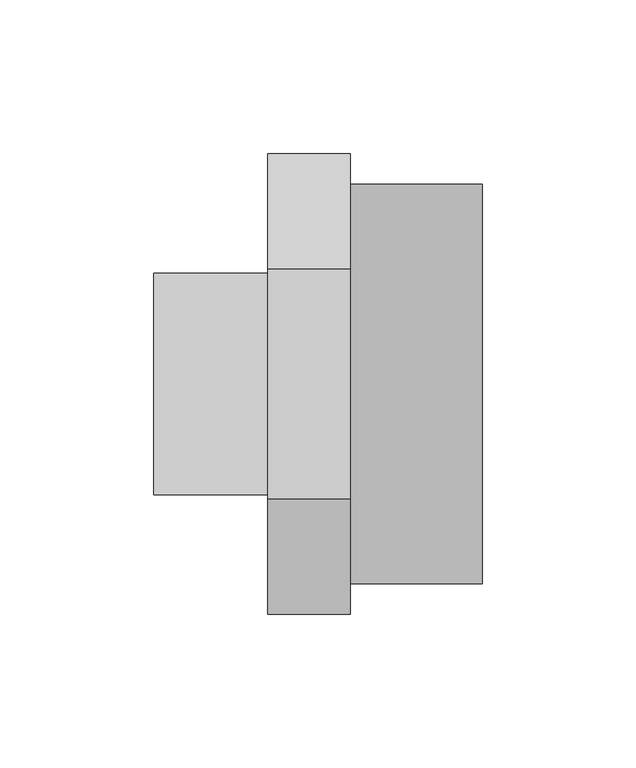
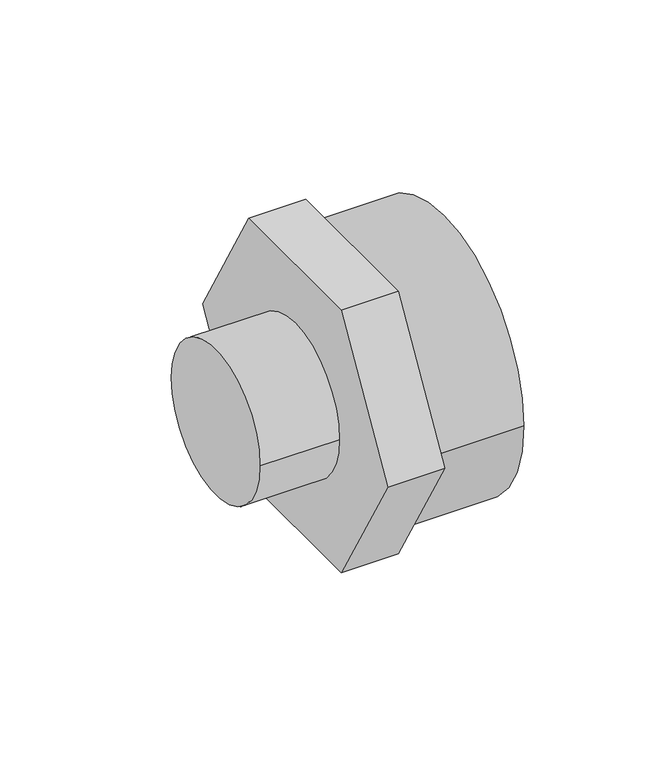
"""IFC4 building model written with IfcOpenShell, lengths in millimetres: pipe fitting geometry, 01011006 : Uniões de redução M/F."""

from ifc_helpers import new_model, si_unit, point, frame, origin, origin_2d, place, context, project, spatial, polyline, circle_curve, trimmed, segment, composite_curve, outline, extrude, source, transform, mapped, element, save


def pipe_fitting_d2e44ccc(model_context):
    return source(origin(), model_context, "Body", "SweptSolid", [
        extrude(outline(composite_curve([segment(trimmed(circle_curve(origin_2d(), 36.0), [point((36.0, 0.0))], [point((-36.0, 0.0))], False, "CARTESIAN"), True, "CONTINUOUS"), segment(trimmed(circle_curve(origin_2d(), 36.0), [point((-36.0, 0.0))], [point((36.0, 0.0))], False, "CARTESIAN"), True, "CONTINUOUS")], self_intersect=False)), frame((0.0, 0.0, 0.0), z_axis=(1.0, 0.0, 0.0), x_axis=(0.0, 1.0, 0.0)), (0.0, 0.0, 1.0), 37.25),
        extrude(outline(polyline([(-37.5277675, 65.0), (37.5277675, 65.0), (75.055535, 0.0), (37.5277675, -65.0), (-37.5277675, -65.0), (-75.055535, 0.0), (-37.5277675, 65.0)])), frame((37.25, 0.0, 0.0), z_axis=(1.0, 0.0, 0.0), x_axis=(0.0, 1.0, 0.0)), (0.0, 0.0, 1.0), 26.75),
        extrude(outline(composite_curve([segment(trimmed(circle_curve(origin_2d(), 65.0), [point((-65.0, 0.0))], [point((65.0, 0.0))], False, "CARTESIAN"), True, "CONTINUOUS"), segment(trimmed(circle_curve(origin_2d(), 65.0), [point((65.0, 0.0))], [point((-65.0, 0.0))], False, "CARTESIAN"), True, "CONTINUOUS")], self_intersect=False)), frame((64.0, 0.0, 0.0), z_axis=(1.0, 0.0, 0.0), x_axis=(0.0, 1.0, 0.0)), (0.0, 0.0, 1.0), 43.0),
    ])


if __name__ == "__main__":
    model = new_model("IFC4")
    model_context = context("Model", 3, world=origin())
    ifc_project = project(units=[si_unit("LENGTHUNIT", "METRE", prefix="MILLI")], contexts=[model_context])
    site = spatial("IfcSite", under=ifc_project)
    building = spatial("IfcBuilding", under=site)
    placement = place(None, origin())
    pipe_fitting_shape = pipe_fitting_d2e44ccc(model_context)
    element("IfcPipeFitting", 1, ObjectType="01011006 : Uniões de redução M/F", at=placement, inside=building, context=model_context, shape_type="MappedRepresentation", body=[
        mapped(pipe_fitting_shape, transform((0.0, 0.0, 0.0), x_axis=(1.0, 0.0, 0.0), y_axis=(0.0, 1.0, 0.0), z_axis=(0.0, 0.0, 1.0))),
    ])
    save(model, "model.ifc")
